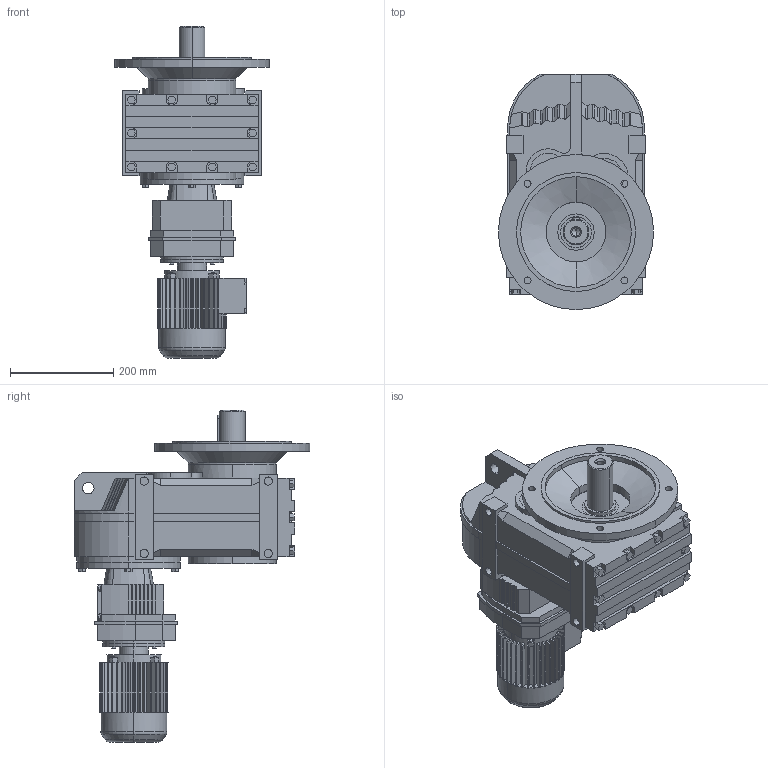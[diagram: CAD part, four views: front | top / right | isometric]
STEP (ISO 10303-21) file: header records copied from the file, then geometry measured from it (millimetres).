
FILE_DESCRIPTION(('Open CASCADE Model'),'2;1');
FILE_NAME('Open CASCADE Shape Model','2021-07-24T11:12:22',('Author'),( 'Open CASCADE'),'Open CASCADE STEP processor 6.3','Open CASCADE 6.3' ,'Unknown');
FILE_SCHEMA(('AUTOMOTIVE_DESIGN_CC2 { 1 2 10303 214 -1 1 5 4 }'));
Length unit declared in the file: millimetre
Products named in the file (6): 1_FF77R37DR63; FAZ27‵157_77.step; 萇儂_120-DR63-191-246-132-105.step; R_77_37.step; す瑩妗陑粣F_77.step; 楊擘F_77.step
Assembly tree (5 placements, depth 2):
  1_FF77R37DR63
    FAZ27‵157_77.step
    萇儂_120-DR63-191-246-132-105.step
    R_77_37.step
    す瑩妗陑粣F_77.step
    楊擘F_77.step
Bounding box: 300 x 455 x 642 mm (x, y, z)
Volume: 22758009.9 mm3; surface area: 1137566.4 mm2
Topology: 5 solids, 5 shells, 1043 faces, 2750 edges, 1796 vertices
Faces by surface type: plane 756, cylinder 247, cone 20, bspline 16, torus 4
Entity records: 70506 total; most frequent: CARTESIAN_POINT 17388, DIRECTION 9340, LINE 5503, VECTOR 5503, ORIENTED_EDGE 5496, PCURVE 5496, DEFINITIONAL_REPRESENTATION 5496, EDGE_CURVE 2748
